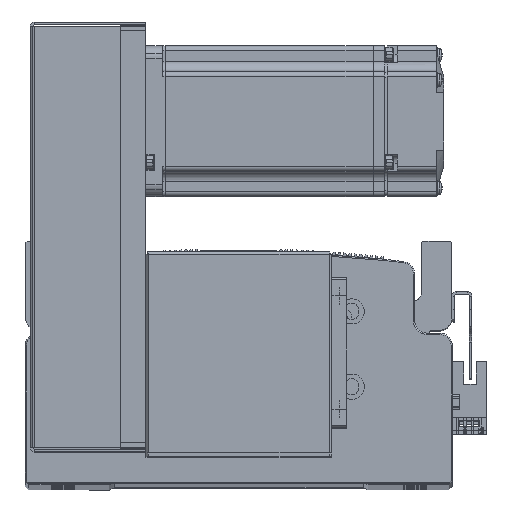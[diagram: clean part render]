
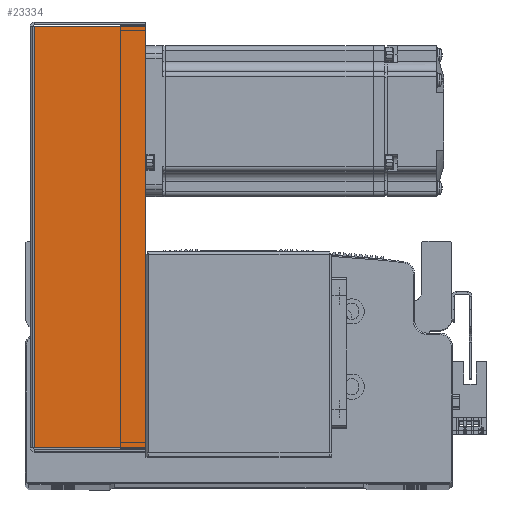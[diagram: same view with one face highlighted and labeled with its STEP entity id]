
A CAD part, top view. The second image highlights one B-rep face of the part: STEP entity #23334.
In plain terms, the highlighted planar face has unit normal (0, 0, 1) as drawn and (0, 0, -1) by its records, which use the part's own axes.
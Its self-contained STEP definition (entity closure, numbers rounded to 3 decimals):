
#10390 = EDGE_CURVE ( 'NONE', #76048, #76149, #60233, .T. ) ;
#10394 = EDGE_CURVE ( 'NONE', #76056, #76149, #60252, .T. ) ;
#10402 = EDGE_CURVE ( 'NONE', #76013, #76048, #60260, .T. ) ;
#10443 = EDGE_CURVE ( 'NONE', #76013, #76056, #60311, .T. ) ;
#23334 = ADVANCED_FACE ( 'NONE', ( #60942 ), #49060, .F. ) ;
#39596 = ORIENTED_EDGE ( 'NONE', *, *, #10443, .F. ) ;
#39624 = ORIENTED_EDGE ( 'NONE', *, *, #10390, .T. ) ;
#39650 = ORIENTED_EDGE ( 'NONE', *, *, #10402, .T. ) ;
#39686 = ORIENTED_EDGE ( 'NONE', *, *, #10394, .F. ) ;
#49060 = PLANE ( 'NONE',  #58021 ) ;
#49063 = CARTESIAN_POINT ( 'NONE',  ( 0., 0., -40.5 ) ) ;
#49064 = DIRECTION ( 'NONE',  ( 0., 0., 1. ) ) ;
#49086 = DIRECTION ( 'NONE',  ( 0., -1., 0. ) ) ;
#56760 = CARTESIAN_POINT ( 'NONE',  ( -83.793, 0.737, -40.5 ) ) ;
#56765 = CARTESIAN_POINT ( 'NONE',  ( 83.793, 0.737, -40.5 ) ) ;
#56769 = CARTESIAN_POINT ( 'NONE',  ( -83.793, 45., -40.5 ) ) ;
#56787 = CARTESIAN_POINT ( 'NONE',  ( 83.793, 45., -40.5 ) ) ;
#58021 = AXIS2_PLACEMENT_3D ( 'NONE', #49063, #49064, #49086 ) ;
#58959 = CARTESIAN_POINT ( 'NONE',  ( 83.793, 0., -40.5 ) ) ;
#58974 = CARTESIAN_POINT ( 'NONE',  ( 84.5, 45., -40.5 ) ) ;
#58979 = DIRECTION ( 'NONE',  ( 1., 0., 0. ) ) ;
#59000 = DIRECTION ( 'NONE',  ( 0., 1., 0. ) ) ;
#59014 = CARTESIAN_POINT ( 'NONE',  ( -83.793, 0., -40.5 ) ) ;
#59022 = DIRECTION ( 'NONE',  ( 0., 1., 0. ) ) ;
#59125 = DIRECTION ( 'NONE',  ( 1., 0., 0. ) ) ;
#59138 = CARTESIAN_POINT ( 'NONE',  ( 0., 0.737, -40.5 ) ) ;
#60233 = LINE ( 'NONE', #58974, #60281 ) ;
#60252 = LINE ( 'NONE', #58959, #60269 ) ;
#60260 = LINE ( 'NONE', #59014, #60270 ) ;
#60269 = VECTOR ( 'NONE', #59000, 1000. ) ;
#60270 = VECTOR ( 'NONE', #59022, 1000. ) ;
#60281 = VECTOR ( 'NONE', #58979, 1000. ) ;
#60311 = LINE ( 'NONE', #59138, #60313 ) ;
#60313 = VECTOR ( 'NONE', #59125, 1000. ) ;
#60942 = FACE_OUTER_BOUND ( 'NONE', #79457, .T. ) ;
#76013 = VERTEX_POINT ( 'NONE', #56760 ) ;
#76048 = VERTEX_POINT ( 'NONE', #56769 ) ;
#76056 = VERTEX_POINT ( 'NONE', #56765 ) ;
#76149 = VERTEX_POINT ( 'NONE', #56787 ) ;
#79457 = EDGE_LOOP ( 'NONE', ( #39596, #39650, #39624, #39686 ) ) ;
